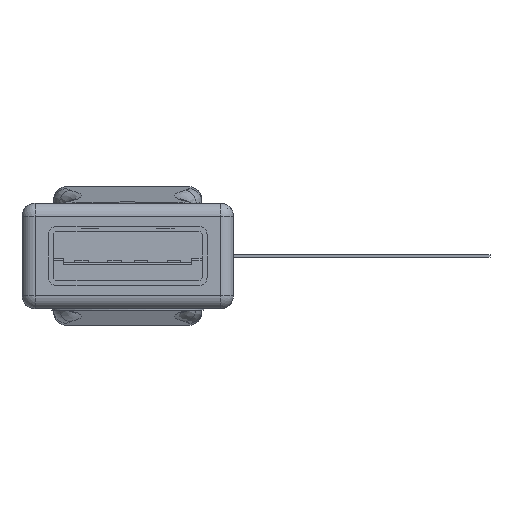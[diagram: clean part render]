
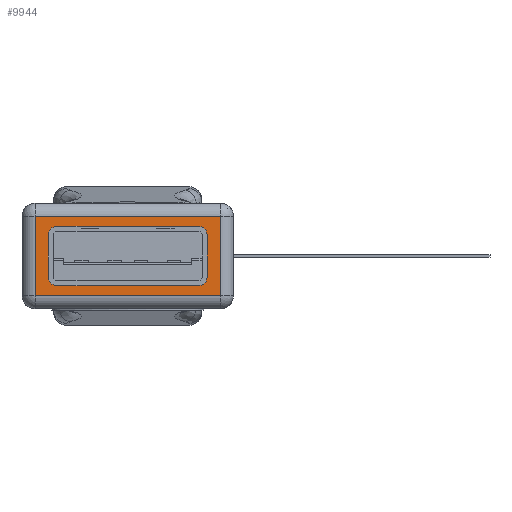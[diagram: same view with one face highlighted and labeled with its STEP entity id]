
A CAD part, front view. The second image highlights one B-rep face of the part: STEP entity #9944.
In plain terms, the highlighted planar face has unit normal (0, -1, 0).
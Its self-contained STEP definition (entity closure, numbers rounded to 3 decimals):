
#284=FACE_BOUND('',#983,.T.);
#438=FACE_OUTER_BOUND('',#982,.T.);
#982=EDGE_LOOP('',(#6691,#6692,#6693,#6694));
#983=EDGE_LOOP('',(#6695,#6696,#6697,#6698,#6699,#6700,#6701,#6702));
#1720=LINE('',#15081,#2680);
#1721=LINE('',#15083,#2681);
#1722=LINE('',#15085,#2682);
#1723=LINE('',#15086,#2683);
#1724=LINE('',#15089,#2684);
#1725=LINE('',#15093,#2685);
#1726=LINE('',#15097,#2686);
#1727=LINE('',#15101,#2687);
#2680=VECTOR('',#11945,6.);
#2681=VECTOR('',#11946,14.);
#2682=VECTOR('',#11947,6.);
#2683=VECTOR('',#11948,14.);
#2684=VECTOR('',#11949,10.72);
#2685=VECTOR('',#11952,3.22);
#2686=VECTOR('',#11955,10.72);
#2687=VECTOR('',#11958,3.22);
#3436=CIRCLE('',#10588,0.64);
#3437=CIRCLE('',#10589,0.64);
#3438=CIRCLE('',#10590,0.64);
#3439=CIRCLE('',#10591,0.64);
#4021=VERTEX_POINT('',#15079);
#4022=VERTEX_POINT('',#15080);
#4023=VERTEX_POINT('',#15082);
#4024=VERTEX_POINT('',#15084);
#4025=VERTEX_POINT('',#15087);
#4026=VERTEX_POINT('',#15088);
#4027=VERTEX_POINT('',#15090);
#4028=VERTEX_POINT('',#15092);
#4029=VERTEX_POINT('',#15094);
#4030=VERTEX_POINT('',#15096);
#4031=VERTEX_POINT('',#15098);
#4032=VERTEX_POINT('',#15100);
#5051=EDGE_CURVE('',#4021,#4022,#1720,.T.);
#5052=EDGE_CURVE('',#4022,#4023,#1721,.T.);
#5053=EDGE_CURVE('',#4023,#4024,#1722,.T.);
#5054=EDGE_CURVE('',#4024,#4021,#1723,.T.);
#5055=EDGE_CURVE('',#4025,#4026,#1724,.T.);
#5056=EDGE_CURVE('',#4025,#4027,#3436,.F.);
#5057=EDGE_CURVE('',#4028,#4027,#1725,.T.);
#5058=EDGE_CURVE('',#4028,#4029,#3437,.F.);
#5059=EDGE_CURVE('',#4030,#4029,#1726,.T.);
#5060=EDGE_CURVE('',#4030,#4031,#3438,.F.);
#5061=EDGE_CURVE('',#4032,#4031,#1727,.T.);
#5062=EDGE_CURVE('',#4032,#4026,#3439,.F.);
#6691=ORIENTED_EDGE('',*,*,#5051,.T.);
#6692=ORIENTED_EDGE('',*,*,#5052,.T.);
#6693=ORIENTED_EDGE('',*,*,#5053,.T.);
#6694=ORIENTED_EDGE('',*,*,#5054,.T.);
#6695=ORIENTED_EDGE('',*,*,#5055,.F.);
#6696=ORIENTED_EDGE('',*,*,#5056,.T.);
#6697=ORIENTED_EDGE('',*,*,#5057,.F.);
#6698=ORIENTED_EDGE('',*,*,#5058,.T.);
#6699=ORIENTED_EDGE('',*,*,#5059,.F.);
#6700=ORIENTED_EDGE('',*,*,#5060,.T.);
#6701=ORIENTED_EDGE('',*,*,#5061,.F.);
#6702=ORIENTED_EDGE('',*,*,#5062,.T.);
#9044=PLANE('',#10587);
#9944=ADVANCED_FACE('',(#438,#284),#9044,.T.);
#10587=AXIS2_PLACEMENT_3D('',#15078,#11943,#11944);
#10588=AXIS2_PLACEMENT_3D('',#15091,#11950,#11951);
#10589=AXIS2_PLACEMENT_3D('',#15095,#11953,#11954);
#10590=AXIS2_PLACEMENT_3D('',#15099,#11956,#11957);
#10591=AXIS2_PLACEMENT_3D('',#15102,#11959,#11960);
#11943=DIRECTION('center_axis',(0.,-1.,0.));
#11944=DIRECTION('ref_axis',(1.,0.,0.));
#11945=DIRECTION('',(0.,0.,-1.));
#11946=DIRECTION('',(1.,0.,0.));
#11947=DIRECTION('',(0.,0.,1.));
#11948=DIRECTION('',(-1.,0.,0.));
#11949=DIRECTION('',(1.,0.,0.));
#11950=DIRECTION('center_axis',(0.,-1.,0.));
#11951=DIRECTION('ref_axis',(1.,0.,0.));
#11952=DIRECTION('',(0.,0.,-1.));
#11953=DIRECTION('center_axis',(0.,-1.,0.));
#11954=DIRECTION('ref_axis',(1.,0.,0.));
#11955=DIRECTION('',(-1.,0.,0.));
#11956=DIRECTION('center_axis',(0.,-1.,0.));
#11957=DIRECTION('ref_axis',(1.,0.,0.));
#11958=DIRECTION('',(0.,0.,1.));
#11959=DIRECTION('center_axis',(0.,-1.,0.));
#11960=DIRECTION('ref_axis',(1.,0.,0.));
#15078=CARTESIAN_POINT('Origin',(-8.,-3.524,-4.));
#15079=CARTESIAN_POINT('',(-7.,-3.524,3.));
#15080=CARTESIAN_POINT('',(-7.,-3.524,-3.));
#15081=CARTESIAN_POINT('',(-7.,-3.524,3.));
#15082=CARTESIAN_POINT('',(7.,-3.524,-3.));
#15083=CARTESIAN_POINT('',(-7.,-3.524,-3.));
#15084=CARTESIAN_POINT('',(7.,-3.524,3.));
#15085=CARTESIAN_POINT('',(7.,-3.524,-3.));
#15086=CARTESIAN_POINT('',(7.,-3.524,3.));
#15087=CARTESIAN_POINT('',(-5.36,-3.524,-2.25));
#15088=CARTESIAN_POINT('',(5.36,-3.524,-2.25));
#15089=CARTESIAN_POINT('',(-5.36,-3.524,-2.25));
#15090=CARTESIAN_POINT('',(-6.,-3.524,-1.61));
#15091=CARTESIAN_POINT('Origin',(-5.36,-3.524,-1.61));
#15092=CARTESIAN_POINT('',(-6.,-3.524,1.61));
#15093=CARTESIAN_POINT('',(-6.,-3.524,1.61));
#15094=CARTESIAN_POINT('',(-5.36,-3.524,2.25));
#15095=CARTESIAN_POINT('Origin',(-5.36,-3.524,1.61));
#15096=CARTESIAN_POINT('',(5.36,-3.524,2.25));
#15097=CARTESIAN_POINT('',(5.36,-3.524,2.25));
#15098=CARTESIAN_POINT('',(6.,-3.524,1.61));
#15099=CARTESIAN_POINT('Origin',(5.36,-3.524,1.61));
#15100=CARTESIAN_POINT('',(6.,-3.524,-1.61));
#15101=CARTESIAN_POINT('',(6.,-3.524,-1.61));
#15102=CARTESIAN_POINT('Origin',(5.36,-3.524,-1.61));
